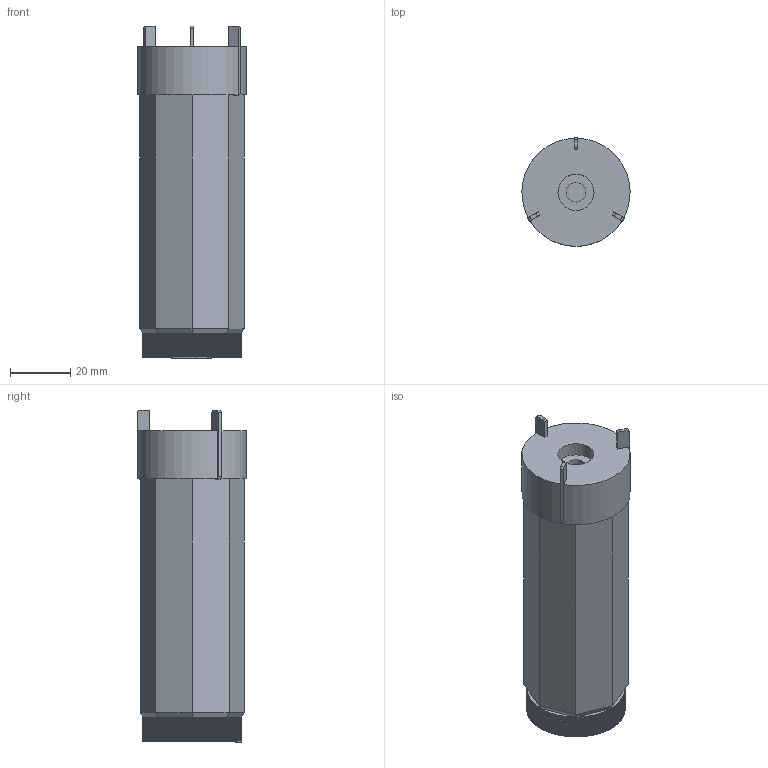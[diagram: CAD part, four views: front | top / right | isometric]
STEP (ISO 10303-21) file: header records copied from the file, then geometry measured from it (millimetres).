
FILE_DESCRIPTION(/* description */ (''),/* implementation_level */ '2;1');
FILE_NAME(/* name */ '06-0447 5C Collet Wrench v1.step',/* time_stamp */ '2023-01-06T15:36:12-08:00',/* author */ (''),/* organization */ (''),/* preprocessor_version */ 'ST-DEVELOPER v19.2',/* originating_system */ 'Autodesk Translation Framework v11.17.0.187',/* authorisation */ '');
FILE_SCHEMA (('AUTOMOTIVE_DESIGN { 1 0 10303 214 3 1 1 }'));
Length unit declared in the file: millimetre
Products named in the file (5): 06-0447 5C Collet Wrench; 06-0447; wrench driver v3; wrench cap v3; 3 drivers v1
Assembly tree (6 placements, depth 3):
  06-0447 5C Collet Wrench
    06-0447
      wrench driver v3
      wrench cap v3
      3 drivers v1  x3
Bounding box: 35.99 x 36.2 x 110.38 mm (x, y, z)
Volume: 49252.8 mm3; surface area: 25057.2 mm2
Topology: 6 solids, 6 shells, 478 faces, 1381 edges, 918 vertices
Faces by surface type: cylinder 423, plane 55
Full cylindrical faces by diameter (mm): 6.5 x1, 12 x1, 24 x1, 24.5 x1, 31.5 x1
Entity records: 15807 total; most frequent: DIRECTION 3101, CARTESIAN_POINT 2688, ORIENTED_EDGE 2666, EDGE_CURVE 1333, AXIS2_PLACEMENT_3D 1299, VERTEX_POINT 886, CIRCLE 830, LINE 503
